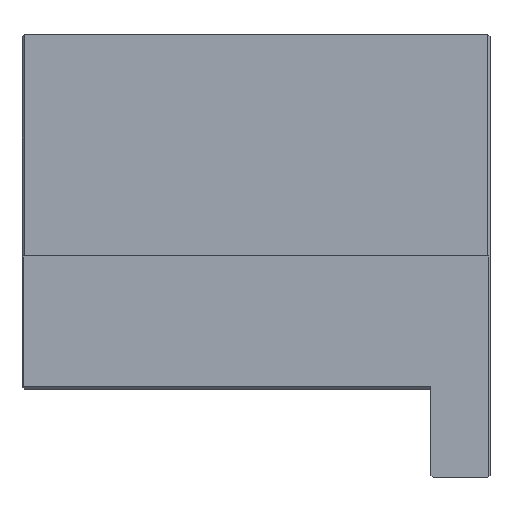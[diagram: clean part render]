
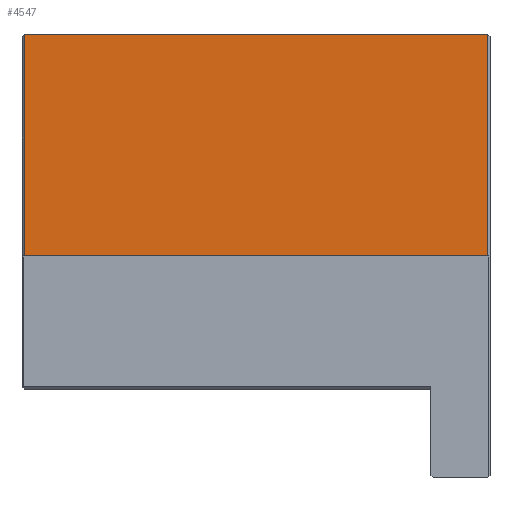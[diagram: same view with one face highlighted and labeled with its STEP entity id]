
A CAD part, front view. The second image highlights one B-rep face of the part: STEP entity #4547.
In plain terms, the highlighted planar face has unit normal (0, -1, 0).
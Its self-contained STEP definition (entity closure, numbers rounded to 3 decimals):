
#225 = VERTEX_POINT ( 'NONE', #2416 ) ;
#632 = VERTEX_POINT ( 'NONE', #3678 ) ;
#919 = FACE_OUTER_BOUND ( 'NONE', #4821, .T. ) ;
#983 = VECTOR ( 'NONE', #2978, 1000. ) ;
#1007 = LINE ( 'NONE', #2738, #983 ) ;
#1131 = ORIENTED_EDGE ( 'NONE', *, *, #2872, .F. ) ;
#1276 = ORIENTED_EDGE ( 'NONE', *, *, #2060, .T. ) ;
#1773 = EDGE_CURVE ( 'NONE', #225, #3196, #3063, .T. ) ;
#1908 = DIRECTION ( 'NONE',  ( 0., 0., 1. ) ) ;
#1964 = CARTESIAN_POINT ( 'NONE',  ( 46., -47.5, 45. ) ) ;
#2060 = EDGE_CURVE ( 'NONE', #3196, #3155, #2892, .T. ) ;
#2290 = LINE ( 'NONE', #4244, #2323 ) ;
#2323 = VECTOR ( 'NONE', #4523, 1000. ) ;
#2416 = CARTESIAN_POINT ( 'NONE',  ( -48., -47.5, 0. ) ) ;
#2494 = CARTESIAN_POINT ( 'NONE',  ( 46., -47.5, 45. ) ) ;
#2522 = AXIS2_PLACEMENT_3D ( 'NONE', #3146, #3045, #3104 ) ;
#2640 = CARTESIAN_POINT ( 'NONE',  ( 46., -47.5, 0. ) ) ;
#2738 = CARTESIAN_POINT ( 'NONE',  ( -48., -47.5, 0. ) ) ;
#2872 = EDGE_CURVE ( 'NONE', #632, #3155, #2290, .T. ) ;
#2883 = VECTOR ( 'NONE', #1908, 1000. ) ;
#2892 = LINE ( 'NONE', #1964, #2883 ) ;
#2978 = DIRECTION ( 'NONE',  ( 0., 0., -1. ) ) ;
#3045 = DIRECTION ( 'NONE',  ( 0., 1., 0. ) ) ;
#3056 = VECTOR ( 'NONE', #4500, 1000. ) ;
#3063 = LINE ( 'NONE', #4593, #3056 ) ;
#3104 = DIRECTION ( 'NONE',  ( 0., 0., 1. ) ) ;
#3146 = CARTESIAN_POINT ( 'NONE',  ( -46.5, -47.5, 45. ) ) ;
#3155 = VERTEX_POINT ( 'NONE', #2494 ) ;
#3160 = ORIENTED_EDGE ( 'NONE', *, *, #4457, .T. ) ;
#3196 = VERTEX_POINT ( 'NONE', #2640 ) ;
#3377 = PLANE ( 'NONE',  #2522 ) ;
#3678 = CARTESIAN_POINT ( 'NONE',  ( -48., -47.5, 45. ) ) ;
#4244 = CARTESIAN_POINT ( 'NONE',  ( -46.5, -47.5, 45. ) ) ;
#4457 = EDGE_CURVE ( 'NONE', #632, #225, #1007, .T. ) ;
#4500 = DIRECTION ( 'NONE',  ( 1., 0., 0. ) ) ;
#4523 = DIRECTION ( 'NONE',  ( 1., 0., 0. ) ) ;
#4547 = ADVANCED_FACE ( 'NONE', ( #919 ), #3377, .F. ) ;
#4593 = CARTESIAN_POINT ( 'NONE',  ( -48.5, -47.5, 0. ) ) ;
#4611 = ORIENTED_EDGE ( 'NONE', *, *, #1773, .T. ) ;
#4821 = EDGE_LOOP ( 'NONE', ( #4611, #1276, #1131, #3160 ) ) ;
